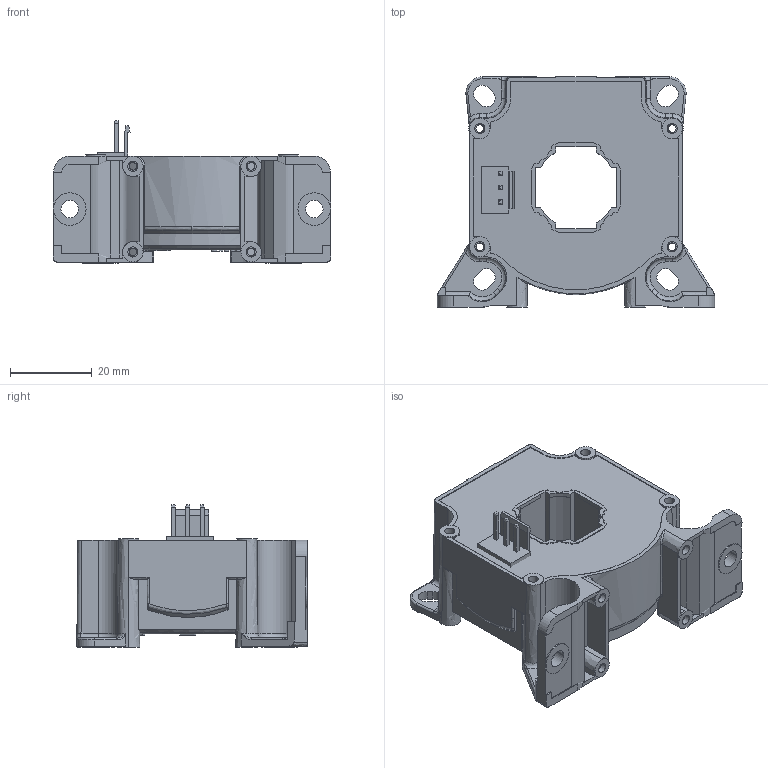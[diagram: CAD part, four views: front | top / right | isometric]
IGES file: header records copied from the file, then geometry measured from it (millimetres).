
Start section: Elysium IGES Interface
Global section: file name: \\Gva50\sd-data\Etudes\GVu\BLACK BOX\LF 305-S\LF 305-S_SP16_blackbox\LF 305-S_SP16_blackbox.igs; native system: SolidDesigner 16.00A  16-Aug-2008; preprocessor: CoCreate IGES_3D V2.2; author: Unknown; organization: Unknown; date: 20100817.145723; units: millimetre
Bounding box: 68 x 56.53 x 35 mm (x, y, z)
Volume: 49427.9 mm3; surface area: 20589.7 mm2
Topology: 3 solids, 3 shells, 1041 faces, 2841 edges, 1852 vertices
Faces by surface type: bspline 1041
